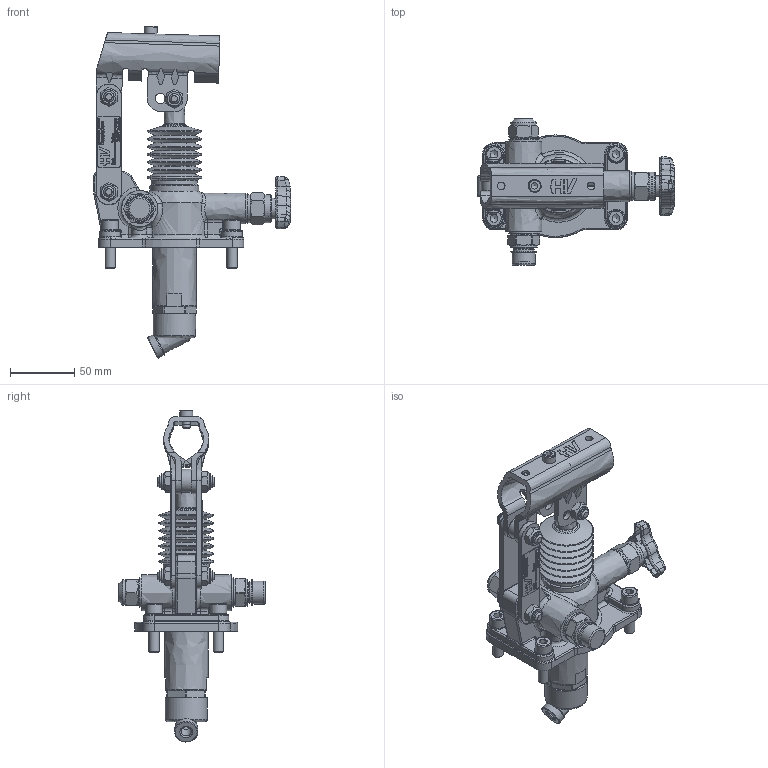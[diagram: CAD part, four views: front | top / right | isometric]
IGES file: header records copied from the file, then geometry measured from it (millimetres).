
Global section: file name: No Iges File Name specified; native system: Autodesk Inventor 2013; preprocessor: AutoDesk Inventor Iges Exporter R2013; author: christian.scardovi; date: 20240227.150954; units: millimetre
Bounding box: 153.5 x 114 x 258.53 mm (x, y, z)
Volume: 2776.9 mm3; surface area: 138670.9 mm2
Topology: 30 solids, 31 shells, 1856 faces, 4582 edges, 2860 vertices
Faces by surface type: bspline 1856
